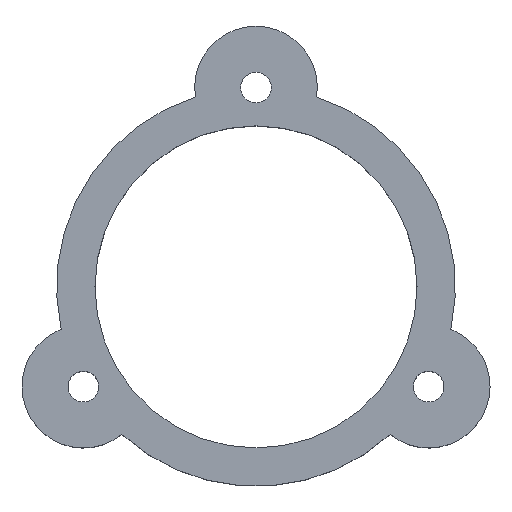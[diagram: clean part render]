
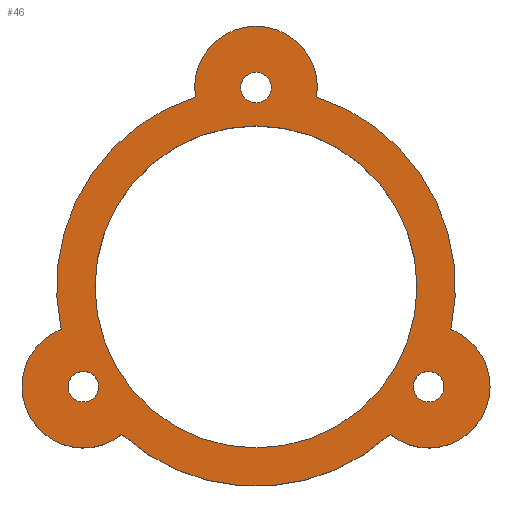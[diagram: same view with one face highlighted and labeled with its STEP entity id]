
A CAD part, top view. The second image highlights one B-rep face of the part: STEP entity #46.
In plain terms, the highlighted planar face has unit normal (0, 0, 1).
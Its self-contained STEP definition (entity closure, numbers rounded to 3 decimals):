
#46 = ADVANCED_FACE( '', ( #94, #95, #96, #97, #98 ), #99, .F. );
#94 = FACE_BOUND( '', #149, .T. );
#95 = FACE_BOUND( '', #150, .T. );
#96 = FACE_BOUND( '', #151, .T. );
#97 = FACE_BOUND( '', #152, .T. );
#98 = FACE_OUTER_BOUND( '', #153, .T. );
#99 = PLANE( '', #154 );
#149 = EDGE_LOOP( '', ( #217 ) );
#150 = EDGE_LOOP( '', ( #218 ) );
#151 = EDGE_LOOP( '', ( #219 ) );
#152 = EDGE_LOOP( '', ( #220 ) );
#153 = EDGE_LOOP( '', ( #221, #222, #223, #224, #225, #226 ) );
#154 = AXIS2_PLACEMENT_3D( '', #227, #228, #229 );
#217 = ORIENTED_EDGE( '', *, *, #282, .T. );
#218 = ORIENTED_EDGE( '', *, *, #295, .T. );
#219 = ORIENTED_EDGE( '', *, *, #302, .T. );
#220 = ORIENTED_EDGE( '', *, *, #303, .T. );
#221 = ORIENTED_EDGE( '', *, *, #287, .F. );
#222 = ORIENTED_EDGE( '', *, *, #304, .F. );
#223 = ORIENTED_EDGE( '', *, *, #298, .F. );
#224 = ORIENTED_EDGE( '', *, *, #305, .F. );
#225 = ORIENTED_EDGE( '', *, *, #292, .F. );
#226 = ORIENTED_EDGE( '', *, *, #306, .F. );
#227 = CARTESIAN_POINT( '', ( 0., 0., 12. ) );
#228 = DIRECTION( '', ( 0., 0., -1. ) );
#229 = DIRECTION( '', ( -1., 0., 0. ) );
#282 = EDGE_CURVE( '', #321, #321, #322, .T. );
#287 = EDGE_CURVE( '', #329, #324, #331, .T. );
#292 = EDGE_CURVE( '', #338, #333, #340, .T. );
#295 = EDGE_CURVE( '', #344, #344, #345, .T. );
#298 = EDGE_CURVE( '', #347, #350, #351, .T. );
#302 = EDGE_CURVE( '', #356, #356, #357, .T. );
#303 = EDGE_CURVE( '', #358, #358, #359, .T. );
#304 = EDGE_CURVE( '', #350, #329, #360, .T. );
#305 = EDGE_CURVE( '', #333, #347, #361, .T. );
#306 = EDGE_CURVE( '', #324, #338, #362, .T. );
#321 = VERTEX_POINT( '', #379 );
#322 = CIRCLE( '', #380, 2. );
#324 = VERTEX_POINT( '', #382 );
#329 = VERTEX_POINT( '', #388 );
#331 = CIRCLE( '', #391, 26. );
#333 = VERTEX_POINT( '', #393 );
#338 = VERTEX_POINT( '', #399 );
#340 = CIRCLE( '', #402, 26. );
#344 = VERTEX_POINT( '', #406 );
#345 = CIRCLE( '', #407, 2. );
#347 = VERTEX_POINT( '', #409 );
#350 = VERTEX_POINT( '', #413 );
#351 = CIRCLE( '', #414, 26. );
#356 = VERTEX_POINT( '', #420 );
#357 = CIRCLE( '', #421, 2. );
#358 = VERTEX_POINT( '', #422 );
#359 = CIRCLE( '', #423, 21. );
#360 = CIRCLE( '', #424, 8. );
#361 = CIRCLE( '', #425, 8. );
#362 = CIRCLE( '', #426, 8. );
#379 = CARTESIAN_POINT( '', ( -22.517, -15., 12. ) );
#380 = AXIS2_PLACEMENT_3D( '', #443, #444, #445 );
#382 = CARTESIAN_POINT( '', ( 25.403, -5.539, 12. ) );
#388 = CARTESIAN_POINT( '', ( 7.905, 24.769, 12. ) );
#391 = AXIS2_PLACEMENT_3D( '', #451, #452, #453 );
#393 = CARTESIAN_POINT( '', ( -17.498, -19.23, 12. ) );
#399 = CARTESIAN_POINT( '', ( 17.498, -19.23, 12. ) );
#402 = AXIS2_PLACEMENT_3D( '', #459, #460, #461 );
#406 = CARTESIAN_POINT( '', ( 22.517, -15., 12. ) );
#407 = AXIS2_PLACEMENT_3D( '', #465, #466, #467 );
#409 = CARTESIAN_POINT( '', ( -25.403, -5.539, 12. ) );
#413 = CARTESIAN_POINT( '', ( -7.905, 24.769, 12. ) );
#414 = AXIS2_PLACEMENT_3D( '', #469, #470, #471 );
#420 = CARTESIAN_POINT( '', ( 0., 24., 12. ) );
#421 = AXIS2_PLACEMENT_3D( '', #476, #477, #478 );
#422 = CARTESIAN_POINT( '', ( 21., 0., 12. ) );
#423 = AXIS2_PLACEMENT_3D( '', #479, #480, #481 );
#424 = AXIS2_PLACEMENT_3D( '', #482, #483, #484 );
#425 = AXIS2_PLACEMENT_3D( '', #485, #486, #487 );
#426 = AXIS2_PLACEMENT_3D( '', #488, #489, #490 );
#443 = CARTESIAN_POINT( '', ( -22.517, -13., 12. ) );
#444 = DIRECTION( '', ( 0., 0., -1. ) );
#445 = DIRECTION( '', ( 0., -1., 0. ) );
#451 = CARTESIAN_POINT( '', ( 0., 0., 12. ) );
#452 = DIRECTION( '', ( 0., 0., -1. ) );
#453 = DIRECTION( '', ( 1., 0., 0. ) );
#459 = CARTESIAN_POINT( '', ( 0., 0., 12. ) );
#460 = DIRECTION( '', ( 0., 0., -1. ) );
#461 = DIRECTION( '', ( 1., 0., 0. ) );
#465 = CARTESIAN_POINT( '', ( 22.517, -13., 12. ) );
#466 = DIRECTION( '', ( 0., 0., -1. ) );
#467 = DIRECTION( '', ( 0., -1., 0. ) );
#469 = CARTESIAN_POINT( '', ( 0., 0., 12. ) );
#470 = DIRECTION( '', ( 0., 0., -1. ) );
#471 = DIRECTION( '', ( 1., 0., 0. ) );
#476 = CARTESIAN_POINT( '', ( 0., 26., 12. ) );
#477 = DIRECTION( '', ( 0., 0., -1. ) );
#478 = DIRECTION( '', ( 0., -1., 0. ) );
#479 = CARTESIAN_POINT( '', ( 0., 0., 12. ) );
#480 = DIRECTION( '', ( 0., 0., -1. ) );
#481 = DIRECTION( '', ( 1., 0., 0. ) );
#482 = CARTESIAN_POINT( '', ( 0., 26., 12. ) );
#483 = DIRECTION( '', ( 0., 0., -1. ) );
#484 = DIRECTION( '', ( 0., -1., 0. ) );
#485 = CARTESIAN_POINT( '', ( -22.517, -13., 12. ) );
#486 = DIRECTION( '', ( 0., 0., -1. ) );
#487 = DIRECTION( '', ( 0.866, 0.5, 0. ) );
#488 = CARTESIAN_POINT( '', ( 22.517, -13., 12. ) );
#489 = DIRECTION( '', ( 0., 0., -1. ) );
#490 = DIRECTION( '', ( -0.866, 0.5, 0. ) );
